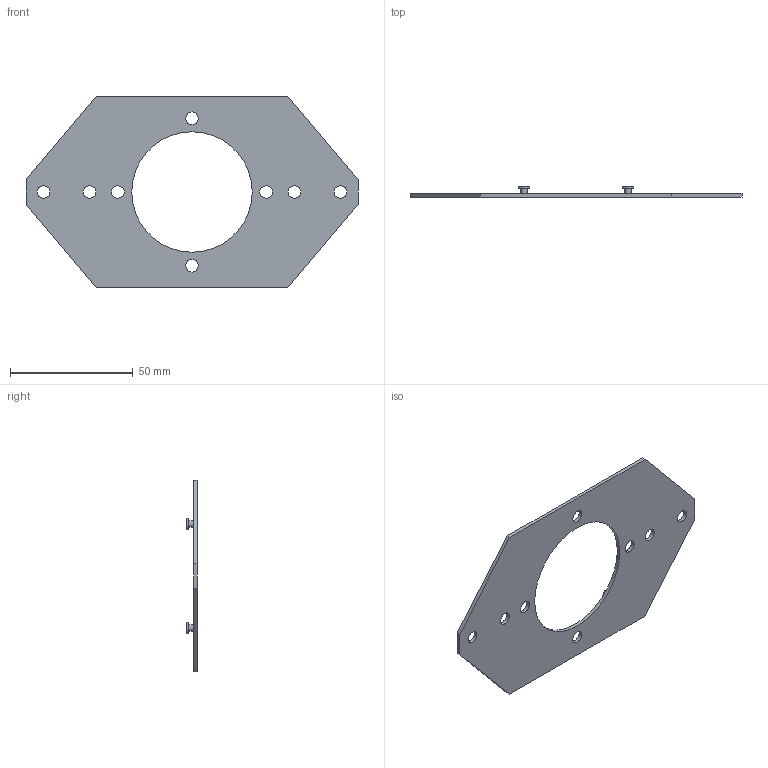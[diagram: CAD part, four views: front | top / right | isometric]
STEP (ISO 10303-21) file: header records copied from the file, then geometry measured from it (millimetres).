
FILE_DESCRIPTION(/* description */ ('STEP AP242','CAx-IF Rec.Pracs.---Representation and Presentation of Product Manufacturing Information (PMI)---4.0---2014-10-13','CAx-IF Rec.Pracs.---3D Tessellated Geometry---0.4---2014-09-14','2;1'),/* implementation_level */ '2;1');
FILE_NAME(/* name */ '6634dc847859092b1b9c27d0',/* time_stamp */ '2024-05-03T12:45:57Z',/* author */ (''),/* organization */ (''),/* preprocessor_version */ 'ST-DEVELOPER v20',/* originating_system */ ' ',/* authorisation */ ' ');
FILE_SCHEMA (('AP242_MANAGED_MODEL_BASED_3D_ENGINEERING_MIM_LF { 1 0 10303 442 1 1 4 }'));
Length unit declared in the file: metre
Products named in the file (1): UMP 5
Bounding box: 135 x 4.25 x 78 mm (x, y, z)
Volume: 9901.2 mm3; surface area: 14232.2 mm2
Topology: 1 solids, 1 shells, 35 faces, 75 edges, 50 vertices
Faces by surface type: plane 18, cylinder 17
Full cylindrical faces by diameter (mm): 2.5 x4, 4.5 x4, 5.1 x8, 49 x1
Entity records: 936 total; most frequent: DIRECTION 164, CARTESIAN_POINT 144, ORIENTED_EDGE 116, EDGE_LOOP 78, FACE_BOUND 78, AXIS2_PLACEMENT_3D 70, EDGE_CURVE 58, VERTEX_POINT 50
